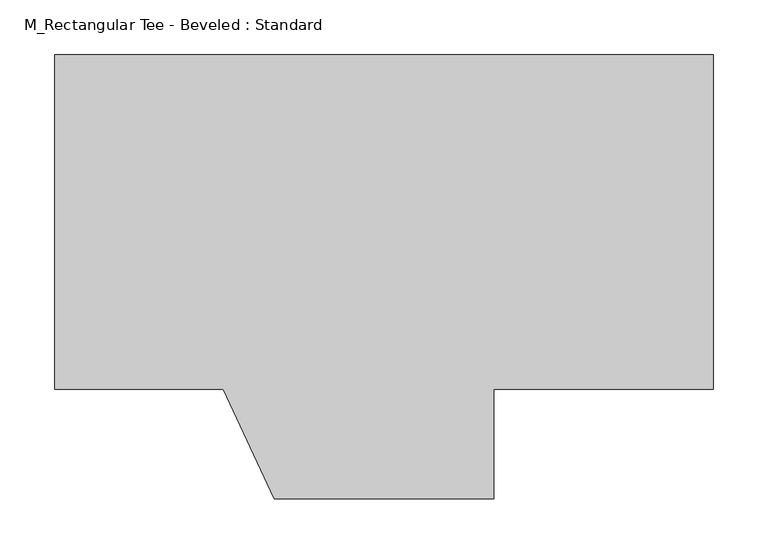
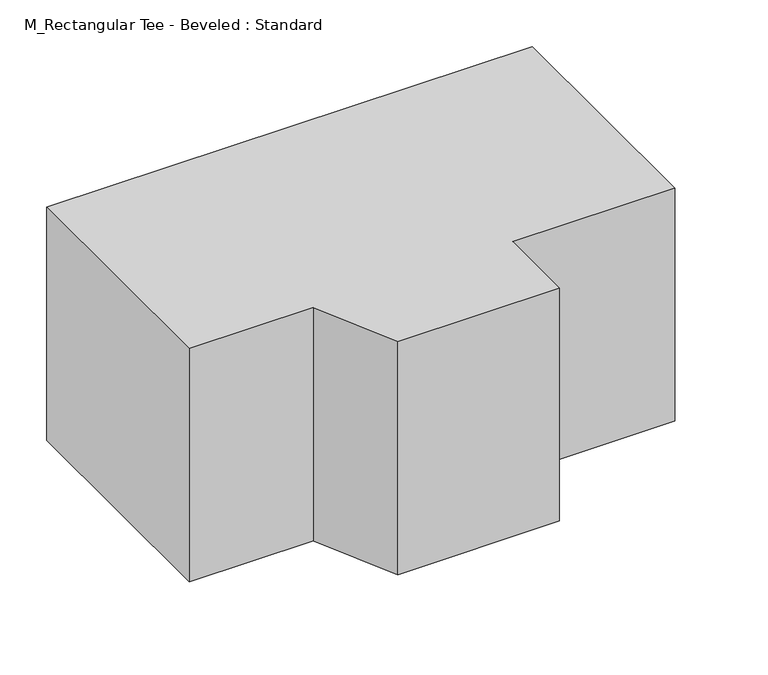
"""IFC4 building model written with IfcOpenShell, lengths in millimetres: duct fitting geometry, M_Rectangular Tee - Beveled : Standard."""

from ifc_helpers import new_model, si_unit, frame, origin, place, context, project, spatial, polyline, outline, extrude, source, transform, mapped, element, save


def m_rectangular_tee_beveled_standard_a3e33682(model_context):
    return source(origin(), model_context, "Body", "SweptSolid", [
        extrude(outline(polyline([(-300.0, -152.4), (-300.0, 152.4), (300.0, 152.4), (300.0, -152.4), (100.0, -152.4), (100.0, -252.4), (-100.0, -252.4), (-146.6307658, -152.4), (-300.0, -152.4)])), frame((0.0, 0.0, -152.4), z_axis=(0.0, 0.0, 1.0), x_axis=(1.0, 0.0, 0.0)), (0.0, 0.0, 1.0), 304.8),
    ])


if __name__ == "__main__":
    model = new_model("IFC4")
    model_context = context("Model", 3, world=origin())
    ifc_project = project(units=[si_unit("LENGTHUNIT", "METRE", prefix="MILLI")], contexts=[model_context])
    site = spatial("IfcSite", under=ifc_project)
    building = spatial("IfcBuilding", under=site)
    placement = place(None, origin())
    m_rectangular_tee_beveled_standard_shape = m_rectangular_tee_beveled_standard_a3e33682(model_context)
    element("IfcDuctFitting", 1, ObjectType="M_Rectangular Tee - Beveled : Standard", at=placement, inside=building, context=model_context, shape_type="MappedRepresentation", body=[
        mapped(m_rectangular_tee_beveled_standard_shape, transform((0.0, 0.0, 0.0), x_axis=(1.0, 0.0, 0.0), y_axis=(0.0, 1.0, 0.0), z_axis=(0.0, 0.0, 1.0))),
    ])
    save(model, "model.ifc")
